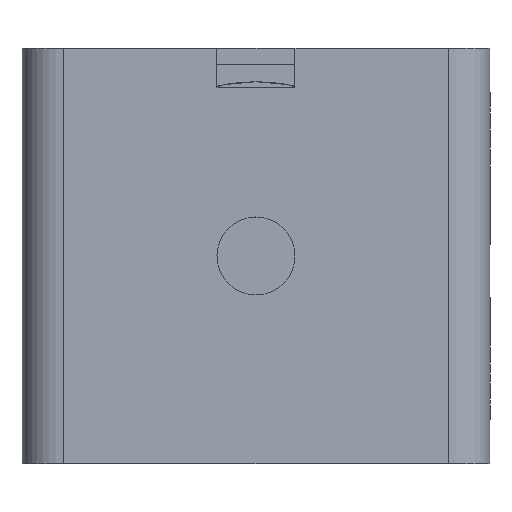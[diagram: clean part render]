
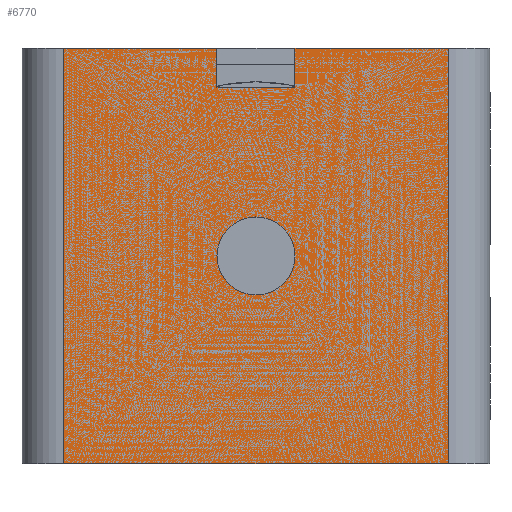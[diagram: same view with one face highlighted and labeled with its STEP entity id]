
A CAD part, front view. The second image highlights one B-rep face of the part: STEP entity #6770.
In plain terms, the highlighted planar face has unit normal (0, -1, 0).
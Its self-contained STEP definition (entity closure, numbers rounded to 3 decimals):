
#131 = CARTESIAN_POINT ( 'NONE',  ( 0., -1.6, 1.5 ) ) ;
#171 = DIRECTION ( 'NONE',  ( 0., 0., -1. ) ) ;
#209 = ORIENTED_EDGE ( 'NONE', *, *, #3550, .T. ) ;
#210 = CARTESIAN_POINT ( 'NONE',  ( -7.4, -1.6, 8. ) ) ;
#254 = DIRECTION ( 'NONE',  ( 0., 0., 1. ) ) ;
#312 = AXIS2_PLACEMENT_3D ( 'NONE', #9304, #4748, #171 ) ;
#327 = CARTESIAN_POINT ( 'NONE',  ( 1.5, -1.6, 8. ) ) ;
#340 = EDGE_CURVE ( 'NONE', #9033, #6068, #6451, .T. ) ;
#443 = CARTESIAN_POINT ( 'NONE',  ( -7.4, -1.6, -8. ) ) ;
#823 = DIRECTION ( 'NONE',  ( 1., 0., 0. ) ) ;
#851 = CARTESIAN_POINT ( 'NONE',  ( -7.4, -1.6, 8. ) ) ;
#1082 = DIRECTION ( 'NONE',  ( 0., 0., -1. ) ) ;
#1111 = ORIENTED_EDGE ( 'NONE', *, *, #6671, .F. ) ;
#1220 = VECTOR ( 'NONE', #1082, 1000. ) ;
#1371 = CARTESIAN_POINT ( 'NONE',  ( 1.5, -1.6, 8. ) ) ;
#1387 = CARTESIAN_POINT ( 'NONE',  ( -1.5, -1.6, 6.5 ) ) ;
#1518 = LINE ( 'NONE', #1387, #9393 ) ;
#1529 = LINE ( 'NONE', #5230, #5342 ) ;
#1563 = VERTEX_POINT ( 'NONE', #1616 ) ;
#1616 = CARTESIAN_POINT ( 'NONE',  ( 7.4, -1.6, 8. ) ) ;
#1786 = EDGE_CURVE ( 'NONE', #9033, #4438, #7058, .T. ) ;
#1813 = ORIENTED_EDGE ( 'NONE', *, *, #4978, .F. ) ;
#1887 = LINE ( 'NONE', #3511, #7959 ) ;
#2412 = ORIENTED_EDGE ( 'NONE', *, *, #1786, .T. ) ;
#2428 = CARTESIAN_POINT ( 'NONE',  ( -7.4, -1.6, -8. ) ) ;
#2542 = CARTESIAN_POINT ( 'NONE',  ( -7.4, -1.6, 8. ) ) ;
#2653 = EDGE_CURVE ( 'NONE', #2956, #3095, #6922, .T. ) ;
#2897 = VECTOR ( 'NONE', #2924, 1000. ) ;
#2924 = DIRECTION ( 'NONE',  ( 0., 0., 1. ) ) ;
#2932 = EDGE_LOOP ( 'NONE', ( #3006, #9242, #7383, #2412, #6965, #209, #7228, #9034 ) ) ;
#2945 = DIRECTION ( 'NONE',  ( 1., 0., 0. ) ) ;
#2956 = VERTEX_POINT ( 'NONE', #6998 ) ;
#3006 = ORIENTED_EDGE ( 'NONE', *, *, #4083, .F. ) ;
#3075 = DIRECTION ( 'NONE',  ( 0., -1., 0. ) ) ;
#3095 = VERTEX_POINT ( 'NONE', #327 ) ;
#3200 = EDGE_CURVE ( 'NONE', #6068, #7300, #1887, .T. ) ;
#3511 = CARTESIAN_POINT ( 'NONE',  ( -1.5, -1.6, 8. ) ) ;
#3550 = EDGE_CURVE ( 'NONE', #9623, #1563, #1529, .T. ) ;
#3640 = EDGE_LOOP ( 'NONE', ( #1813, #1111 ) ) ;
#3702 = EDGE_CURVE ( 'NONE', #3095, #1563, #4390, .T. ) ;
#3959 = DIRECTION ( 'NONE',  ( 1., 0., 0. ) ) ;
#4037 = AXIS2_PLACEMENT_3D ( 'NONE', #7613, #3075, #8399 ) ;
#4083 = EDGE_CURVE ( 'NONE', #7300, #2956, #1518, .T. ) ;
#4180 = CARTESIAN_POINT ( 'NONE',  ( -1.5, -1.6, 6.5 ) ) ;
#4390 = LINE ( 'NONE', #851, #8447 ) ;
#4438 = VERTEX_POINT ( 'NONE', #443 ) ;
#4492 = FACE_OUTER_BOUND ( 'NONE', #2932, .T. ) ;
#4748 = DIRECTION ( 'NONE',  ( 0., -1., 0. ) ) ;
#4847 = DIRECTION ( 'NONE',  ( 0., 1., 0. ) ) ;
#4925 = AXIS2_PLACEMENT_3D ( 'NONE', #2542, #4847, #254 ) ;
#4978 = EDGE_CURVE ( 'NONE', #5306, #6659, #6699, .T. ) ;
#4990 = CARTESIAN_POINT ( 'NONE',  ( 0., -1.6, -1.5 ) ) ;
#5230 = CARTESIAN_POINT ( 'NONE',  ( 7.4, -1.6, 8. ) ) ;
#5306 = VERTEX_POINT ( 'NONE', #4990 ) ;
#5342 = VECTOR ( 'NONE', #6719, 1000. ) ;
#5558 = PLANE ( 'NONE',  #4925 ) ;
#5650 = CARTESIAN_POINT ( 'NONE',  ( -7.4, -1.6, 8. ) ) ;
#5860 = VECTOR ( 'NONE', #3959, 1000. ) ;
#5919 = CARTESIAN_POINT ( 'NONE',  ( -1.5, -1.6, 8. ) ) ;
#6068 = VERTEX_POINT ( 'NONE', #5919 ) ;
#6451 = LINE ( 'NONE', #8937, #8268 ) ;
#6474 = FACE_BOUND ( 'NONE', #3640, .T. ) ;
#6659 = VERTEX_POINT ( 'NONE', #131 ) ;
#6671 = EDGE_CURVE ( 'NONE', #6659, #5306, #9254, .T. ) ;
#6699 = CIRCLE ( 'NONE', #4037, 1.5 ) ;
#6719 = DIRECTION ( 'NONE',  ( 0., 0., 1. ) ) ;
#6770 = ADVANCED_FACE ( 'NONE', ( #6474, #4492 ), #5558, .F. ) ;
#6922 = LINE ( 'NONE', #1371, #2897 ) ;
#6965 = ORIENTED_EDGE ( 'NONE', *, *, #8977, .T. ) ;
#6998 = CARTESIAN_POINT ( 'NONE',  ( 1.5, -1.6, 6.5 ) ) ;
#7058 = LINE ( 'NONE', #5650, #1220 ) ;
#7228 = ORIENTED_EDGE ( 'NONE', *, *, #3702, .F. ) ;
#7300 = VERTEX_POINT ( 'NONE', #4180 ) ;
#7363 = CARTESIAN_POINT ( 'NONE',  ( 7.4, -1.6, -8. ) ) ;
#7383 = ORIENTED_EDGE ( 'NONE', *, *, #340, .F. ) ;
#7613 = CARTESIAN_POINT ( 'NONE',  ( 0., -1.6, 0. ) ) ;
#7959 = VECTOR ( 'NONE', #8834, 1000. ) ;
#8268 = VECTOR ( 'NONE', #9713, 1000. ) ;
#8399 = DIRECTION ( 'NONE',  ( 0., 0., -1. ) ) ;
#8447 = VECTOR ( 'NONE', #823, 1000. ) ;
#8834 = DIRECTION ( 'NONE',  ( 0., 0., -1. ) ) ;
#8937 = CARTESIAN_POINT ( 'NONE',  ( -7.4, -1.6, 8. ) ) ;
#8977 = EDGE_CURVE ( 'NONE', #4438, #9623, #9463, .T. ) ;
#9033 = VERTEX_POINT ( 'NONE', #210 ) ;
#9034 = ORIENTED_EDGE ( 'NONE', *, *, #2653, .F. ) ;
#9242 = ORIENTED_EDGE ( 'NONE', *, *, #3200, .F. ) ;
#9254 = CIRCLE ( 'NONE', #312, 1.5 ) ;
#9304 = CARTESIAN_POINT ( 'NONE',  ( 0., -1.6, 0. ) ) ;
#9393 = VECTOR ( 'NONE', #2945, 1000. ) ;
#9463 = LINE ( 'NONE', #2428, #5860 ) ;
#9623 = VERTEX_POINT ( 'NONE', #7363 ) ;
#9713 = DIRECTION ( 'NONE',  ( 1., 0., 0. ) ) ;
